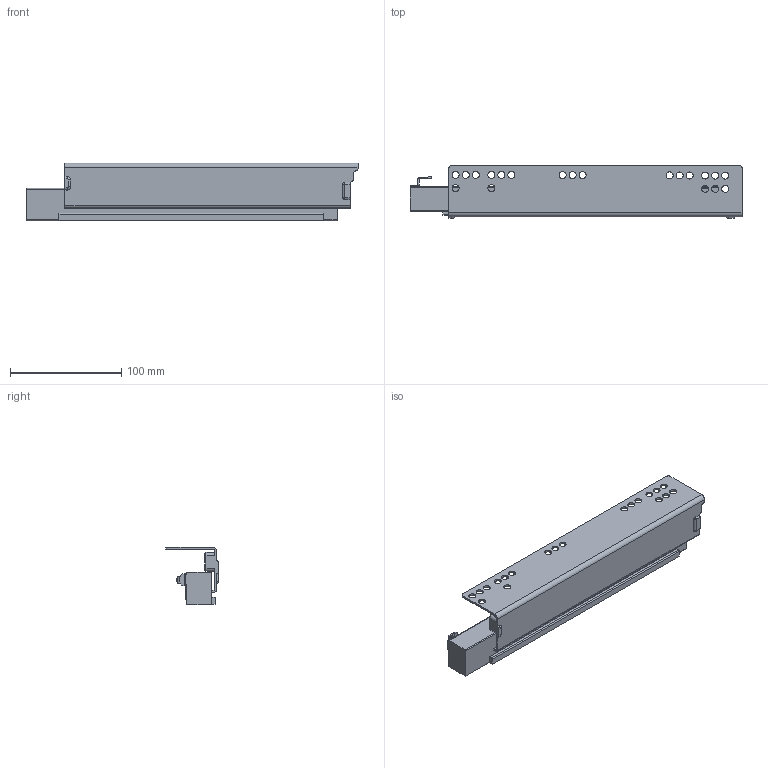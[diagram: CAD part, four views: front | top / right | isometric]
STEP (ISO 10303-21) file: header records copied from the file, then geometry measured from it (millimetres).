
FILE_DESCRIPTION (( 'STEP AP203' ), '1' );
FILE_NAME ('HT103004H-L(敕磁).STEP', '2021-07-31T01:14:19', ( 'Users' ), ( 'Microsoft' ), 'SwSTEP 2.0', 'SolidWorks 2018', '' );
FILE_SCHEMA (( 'CONFIG_CONTROL_DESIGN' ));
Length unit declared in the file: millimetre
Products named in the file (1): HT103004H-L(敕磁)
Bounding box: 298 x 47.5 x 51.73 mm (x, y, z)
Volume: 251635.5 mm3; surface area: 79904.1 mm2
Topology: 1 solids, 1 shells, 209 faces, 551 edges, 344 vertices
Faces by surface type: cylinder 94, plane 61, cone 40, torus 12, sphere 2
Entity records: 6618 total; most frequent: DIRECTION 1210, CARTESIAN_POINT 1118, ORIENTED_EDGE 1098, EDGE_CURVE 549, AXIS2_PLACEMENT_3D 456, VERTEX_POINT 344, LINE 298, VECTOR 298
